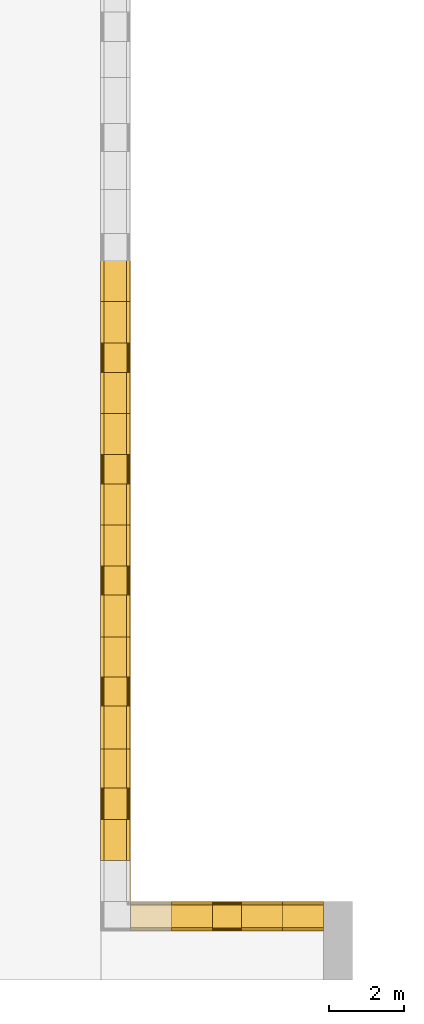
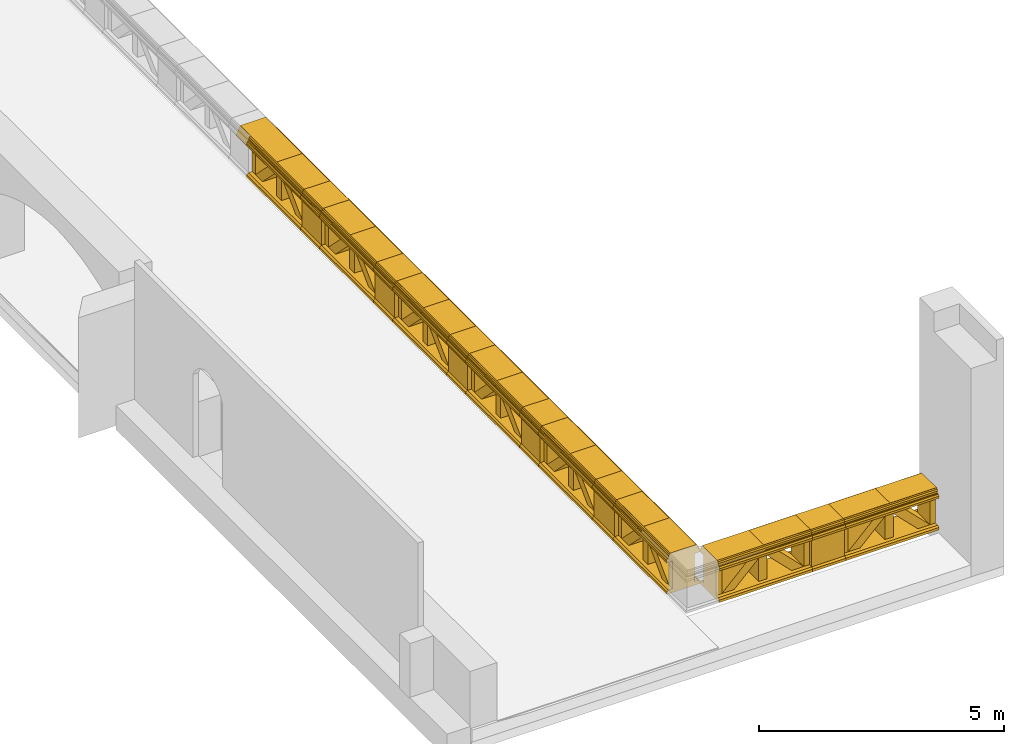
# One storey, part 6 of 9: 28 railings.
"""IFC2X3 building model written with IfcOpenShell, lengths in millimetres."""

from ifc_helpers import new_model, entity, si_unit, converted_unit, derived_unit, direction, frame, origin, place, context, subcontext, project, spatial, polyline, outline, extrude, faceted_brep, source, transform, mapped, material, type_object, type_shapes, element, save


model = new_model("IFC2X3")

# Units and contexts
model_context = context("Model", 3, precision=0.01, world=origin(), true_north=direction((6.123031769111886e-17, 1.0)))
body_context = subcontext(model_context, "Body", "Model", "MODEL_VIEW")
ifc_project = project(units=[si_unit("LENGTHUNIT", "METRE", prefix="MILLI"), si_unit("AREAUNIT", "SQUARE_METRE"), si_unit("VOLUMEUNIT", "CUBIC_METRE"), converted_unit("PLANEANGLEUNIT", "DEGREE", entity("IfcPlaneAngleMeasure", 0.017453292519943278), si_unit("PLANEANGLEUNIT", "RADIAN"), dimensions=[0, 0, 0, 0, 0, 0, 0]), si_unit("MASSUNIT", "GRAM", prefix="KILO"), derived_unit("MASSDENSITYUNIT", [(si_unit("MASSUNIT", "GRAM", prefix="KILO"), 1), (si_unit("LENGTHUNIT", "METRE"), -3)]), derived_unit("IONCONCENTRATIONUNIT", [(si_unit("MASSUNIT", "GRAM", prefix="KILO"), 1), (si_unit("LENGTHUNIT", "METRE"), -3)]), derived_unit("MOMENTOFINERTIAUNIT", [(si_unit("LENGTHUNIT", "METRE"), 4)]), si_unit("TIMEUNIT", "SECOND"), si_unit("FREQUENCYUNIT", "HERTZ"), si_unit("THERMODYNAMICTEMPERATUREUNIT", "DEGREE_CELSIUS"), derived_unit("THERMALTRANSMITTANCEUNIT", [(si_unit("MASSUNIT", "GRAM", prefix="KILO"), 1), (si_unit("THERMODYNAMICTEMPERATUREUNIT", "KELVIN"), -1), (si_unit("TIMEUNIT", "SECOND"), -3)]), derived_unit("THERMALCONDUCTANCEUNIT", [(si_unit("MASSUNIT", "GRAM", prefix="KILO"), 1), (si_unit("THERMODYNAMICTEMPERATUREUNIT", "KELVIN"), -1), (si_unit("TIMEUNIT", "SECOND"), -3), (si_unit("LENGTHUNIT", "METRE"), 1)]), derived_unit("VOLUMETRICFLOWRATEUNIT", [(si_unit("LENGTHUNIT", "METRE", prefix="DECI"), 3), (si_unit("TIMEUNIT", "SECOND"), -1)]), derived_unit("MASSFLOWRATEUNIT", [(si_unit("MASSUNIT", "GRAM", prefix="KILO"), 1), (si_unit("TIMEUNIT", "SECOND"), -1)]), derived_unit("ROTATIONALFREQUENCYUNIT", [(si_unit("TIMEUNIT", "SECOND"), -1)]), si_unit("ELECTRICCURRENTUNIT", "AMPERE"), si_unit("ELECTRICVOLTAGEUNIT", "VOLT"), si_unit("POWERUNIT", "WATT"), si_unit("FORCEUNIT", "NEWTON", prefix="KILO"), si_unit("ILLUMINANCEUNIT", "LUX"), si_unit("LUMINOUSFLUXUNIT", "LUMEN"), si_unit("LUMINOUSINTENSITYUNIT", "CANDELA"), si_unit("ENERGYUNIT", "JOULE"), derived_unit("USERDEFINED", [(si_unit("MASSUNIT", "GRAM", prefix="KILO"), -1), (si_unit("LENGTHUNIT", "METRE"), -2), (si_unit("TIMEUNIT", "SECOND"), 3), (si_unit("LUMINOUSFLUXUNIT", "LUMEN"), 1)]), derived_unit("USERDEFINED", [(si_unit("MASSUNIT", "GRAM", prefix="KILO"), 1), (si_unit("TIMEUNIT", "SECOND"), -3), (si_unit("LENGTHUNIT", "METRE"), 3), (si_unit("ELECTRICCURRENTUNIT", "AMPERE"), -2)]), derived_unit("SOUNDPOWERUNIT", [(si_unit("MASSUNIT", "GRAM", prefix="KILO"), 1), (si_unit("TIMEUNIT", "SECOND"), -3), (si_unit("LENGTHUNIT", "METRE"), 2)]), derived_unit("SOUNDPRESSUREUNIT", [(si_unit("MASSUNIT", "GRAM", prefix="KILO"), 1), (si_unit("LENGTHUNIT", "METRE"), -1), (si_unit("TIMEUNIT", "SECOND"), -2)]), derived_unit("LINEARVELOCITYUNIT", [(si_unit("LENGTHUNIT", "METRE"), 1), (si_unit("TIMEUNIT", "SECOND"), -1)]), si_unit("PRESSUREUNIT", "PASCAL"), derived_unit("USERDEFINED", [(si_unit("MASSUNIT", "GRAM", prefix="KILO"), 1), (si_unit("LENGTHUNIT", "METRE"), -2), (si_unit("TIMEUNIT", "SECOND"), -2)]), derived_unit("LINEARFORCEUNIT", [(si_unit("MASSUNIT", "GRAM", prefix="KILO"), 1), (si_unit("TIMEUNIT", "SECOND"), -2)]), derived_unit("PLANARFORCEUNIT", [(si_unit("MASSUNIT", "GRAM", prefix="KILO"), 1), (si_unit("LENGTHUNIT", "METRE"), -1), (si_unit("TIMEUNIT", "SECOND"), -2)]), derived_unit("SPECIFICHEATCAPACITYUNIT", [(si_unit("THERMODYNAMICTEMPERATUREUNIT", "KELVIN"), -1), (si_unit("LENGTHUNIT", "METRE"), 2), (si_unit("TIMEUNIT", "SECOND"), -2)]), derived_unit("HEATFLUXDENSITYUNIT", [(si_unit("MASSUNIT", "GRAM", prefix="KILO"), 1), (si_unit("TIMEUNIT", "SECOND"), -3)]), derived_unit("HEATINGVALUEUNIT", [(si_unit("LENGTHUNIT", "METRE"), 2), (si_unit("TIMEUNIT", "SECOND"), -2)]), derived_unit("VAPORPERMEABILITYUNIT", [(si_unit("LENGTHUNIT", "METRE"), -1), (si_unit("TIMEUNIT", "SECOND"), 1)]), derived_unit("DYNAMICVISCOSITYUNIT", [(si_unit("MASSUNIT", "GRAM", prefix="KILO"), 1), (si_unit("TIMEUNIT", "SECOND"), -1), (si_unit("LENGTHUNIT", "METRE"), -1)]), derived_unit("THERMALEXPANSIONCOEFFICIENTUNIT", [(si_unit("THERMODYNAMICTEMPERATUREUNIT", "KELVIN"), -1)]), derived_unit("MODULUSOFELASTICITYUNIT", [(si_unit("MASSUNIT", "GRAM", prefix="KILO"), 1), (si_unit("LENGTHUNIT", "METRE"), -1), (si_unit("TIMEUNIT", "SECOND"), -2)]), derived_unit("ISOTHERMALMOISTURECAPACITYUNIT", [(si_unit("MASSUNIT", "GRAM", prefix="KILO"), -1), (si_unit("LENGTHUNIT", "METRE"), 3)]), derived_unit("MOISTUREDIFFUSIVITYUNIT", [(si_unit("TIMEUNIT", "SECOND"), -1), (si_unit("LENGTHUNIT", "METRE"), 2)]), derived_unit("MASSPERLENGTHUNIT", [(si_unit("MASSUNIT", "GRAM", prefix="KILO"), 1), (si_unit("LENGTHUNIT", "METRE"), -1)]), derived_unit("THERMALRESISTANCEUNIT", [(si_unit("MASSUNIT", "GRAM", prefix="KILO"), -1), (si_unit("TIMEUNIT", "SECOND"), 3), (si_unit("THERMODYNAMICTEMPERATUREUNIT", "KELVIN"), 1)]), derived_unit("ACCELERATIONUNIT", [(si_unit("LENGTHUNIT", "METRE"), 1), (si_unit("TIMEUNIT", "SECOND"), -2)]), derived_unit("ANGULARVELOCITYUNIT", [(si_unit("TIMEUNIT", "SECOND"), -1), (si_unit("PLANEANGLEUNIT", "RADIAN"), 1)]), derived_unit("LINEARSTIFFNESSUNIT", [(si_unit("MASSUNIT", "GRAM", prefix="KILO"), 1), (si_unit("TIMEUNIT", "SECOND"), -2)]), derived_unit("WARPINGCONSTANTUNIT", [(si_unit("LENGTHUNIT", "METRE"), 6)]), derived_unit("LINEARMOMENTUNIT", [(si_unit("MASSUNIT", "GRAM", prefix="KILO"), 1), (si_unit("LENGTHUNIT", "METRE"), 1), (si_unit("TIMEUNIT", "SECOND"), -2)]), derived_unit("TORQUEUNIT", [(si_unit("MASSUNIT", "GRAM", prefix="KILO"), 1), (si_unit("LENGTHUNIT", "METRE"), 2), (si_unit("TIMEUNIT", "SECOND"), -2)])], contexts=[model_context])

# Site, building, storey
site_placement = place(None, origin())
site = spatial("IfcSite", under=ifc_project, at=site_placement, Name="Default", CompositionType="ELEMENT")
building_placement = place(site_placement, origin())
building = spatial("IfcBuilding", under=site, at=building_placement, Name="Eesti Rahvusraamatukogu hoone renoveerimise projekteerimistööd", CompositionType="ELEMENT")
storey_placement = place(building_placement, frame((0.0, 0.0, 3100.0)))
storey = spatial("IfcBuildingStorey", under=building, at=storey_placement, Name="E-korpus 2. korrus", CompositionType="ELEMENT", Elevation=3100.0)

# Railings
ifc_material = material(Name="LUMION_facade concrete")
railing_type_1 = type_object("IfcRailingType", Name="MK piire, katusepõhine 1:Railing Roof Based", PredefinedType="NOTDEFINED", material=ifc_material)
shared_shape_1 = source(origin(), body_context, "Body", "Brep", [
    faceted_brep([(1100.0, -261.2500000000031, 420.0), (1100.0, 261.2500000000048, 420.0), (1100.0, 261.25000000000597, 1210.0), (1100.0, 396.2500000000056, 1210.0), (1100.0, 396.2500000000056, 1260.882352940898), (1100.0, 376.25000000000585, 1305.0), (1100.0, 346.25000000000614, 1305.0), (1100.0, 346.2500000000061, 1362.4999999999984), (1100.0, 329.25000000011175, 1400.0), (1100.0, 306.25000000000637, 1420.0), (1100.0, -306.2500000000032, 1420.0), (1100.0, -329.250000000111, 1400.0), (1100.0, -346.25000000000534, 1362.4999999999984), (1100.0, -346.25000000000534, 1305.0), (1100.0, -376.250000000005, 1305.0), (1100.0, -396.25000000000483, 1260.882352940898), (1100.0, -396.25000000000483, 1210.0), (1100.0, -261.2500000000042, 1210.0), (-1100.0, -261.2500000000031, 420.0), (-1100.0, -261.2500000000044, 1210.0), (-1100.0, -396.25000000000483, 1210.0), (-1100.0, -396.25000000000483, 1260.882352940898), (-1100.0, -376.250000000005, 1305.0), (-1100.0, -346.25000000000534, 1305.0), (-1100.0, -346.25000000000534, 1362.4999999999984), (-1100.0, -329.250000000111, 1400.0), (-1100.0, -306.25000000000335, 1420.0), (-1100.0, 306.25000000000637, 1420.0), (-1100.0, 329.25000000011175, 1400.0), (-1100.0, 346.2500000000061, 1362.4999999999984), (-1100.0, 346.25000000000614, 1305.0), (-1100.0, 376.25000000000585, 1305.0), (-1100.0, 396.2500000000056, 1260.882352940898), (-1100.0, 396.2500000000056, 1210.0), (-1100.0, 261.25000000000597, 1210.0), (-1100.0, 261.2500000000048, 420.0), (970.0, -261.2500000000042, 1210.0), (970.0, -261.2500000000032, 515.0), (275.0, -261.2500000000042, 1210.0), (-275.0, -261.2500000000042, 1210.0), (-970.0, -261.2500000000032, 515.0), (-970.0, -261.2500000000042, 1210.0), (680.0, -261.2500000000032, 515.0), (100.0, -261.2500000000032, 515.0), (100.0, -261.25000000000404, 1095.0), (-100.0, -261.2500000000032, 515.0), (-680.0, -261.2500000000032, 515.0), (-100.0, -261.25000000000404, 1095.0), (-970.0, 261.25000000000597, 1210.0), (-970.0, 261.25000000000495, 515.0), (-275.0, 261.25000000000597, 1210.0), (275.0, 261.25000000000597, 1210.0), (970.0, 261.25000000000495, 515.0), (970.0, 261.25000000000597, 1210.0), (100.0, 261.25000000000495, 515.0), (680.0, 261.25000000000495, 515.0), (100.0, 261.2500000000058, 1095.0), (-680.0, 261.25000000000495, 515.0), (-100.0, 261.25000000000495, 515.0), (-100.0, 261.2500000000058, 1095.0)], [[[0, 1, 2, 3, 4, 5, 6, 7, 8, 9, 10, 11, 12, 13, 14, 15, 16, 17]], [[18, 19, 20, 21, 22, 23, 24, 25, 26, 27, 28, 29, 30, 31, 32, 33, 34, 35]], [[0, 17, 36, 37, 38, 39, 40, 41, 19, 18], [42, 43, 44], [45, 46, 47]], [[1, 0, 18, 35]], [[2, 1, 35, 34, 48, 49, 50, 51, 52, 53], [54, 55, 56], [57, 58, 59]], [[3, 2, 53, 36, 17, 16, 20, 19, 41, 48, 34, 33], [50, 39, 38, 51]], [[4, 3, 33, 32]], [[5, 4, 32, 31]], [[6, 5, 31, 30]], [[7, 6, 30, 29]], [[8, 7, 29, 28]], [[9, 8, 28, 27]], [[10, 9, 27, 26]], [[11, 10, 26, 25]], [[12, 11, 25, 24]], [[13, 12, 24, 23]], [[14, 13, 23, 22]], [[15, 14, 22, 21]], [[20, 16, 15, 21]], [[54, 43, 42, 55]], [[55, 42, 44, 56]], [[43, 54, 56, 44]], [[57, 46, 45, 58]], [[58, 45, 47, 59]], [[46, 57, 59, 47]], [[39, 50, 49, 40]], [[48, 41, 40, 49]], [[36, 53, 52, 37]], [[51, 38, 37, 52]]]),
    faceted_brep([(1100.0, -396.2500000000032, 420.0), (1100.0, -261.25000000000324, 420.0), (1100.0, -261.25000000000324, 515.0), (1100.0, -351.2500000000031, 515.0), (1100.0, -396.2500000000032, 483.4906607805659), (-1100.0, -396.2500000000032, 420.0), (-1100.0, -261.25000000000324, 420.0), (-1100.0, -261.25000000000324, 515.0), (-1100.0, -396.2500000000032, 483.4906607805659), (-1100.0, -351.2500000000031, 515.0)], [[[0, 1, 2, 3, 4]], [[1, 0, 5, 6]], [[2, 1, 6, 7]], [[0, 4, 8, 5]], [[3, 2, 7, 9]], [[4, 3, 9, 8]], [[5, 8, 9, 7, 6]]]),
    faceted_brep([(-1100.0, 396.250000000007, 420.0), (-1100.0, 261.2500000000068, 420.0), (-1100.0, 261.2500000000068, 515.0), (-1100.0, 351.25000000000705, 515.0), (-1100.0, 396.250000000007, 483.4906607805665), (1100.0, 396.250000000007, 483.4906607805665), (1100.0, 396.250000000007, 420.0), (1100.0, 261.2500000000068, 420.0), (1100.0, 261.2500000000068, 515.0), (1100.0, 351.25000000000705, 515.0)], [[[0, 1, 2, 3, 4]], [[5, 6, 0, 4]], [[7, 8, 2, 1]], [[6, 7, 1, 0]], [[9, 5, 4, 3]], [[8, 9, 3, 2]], [[6, 5, 9, 8, 7]]]),
])
type_shapes(railing_type_1, [shared_shape_1])
for number, where, z_axis, x_axis, name in (
    (1, (-42986.24999999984, 16858.00000000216, 60.0), (0.0, 0.0, 1.0), (0.0, -1.0, 0.0), "MK piire, katusepõhine 1:Railing Roof Based"),
    (2, (-42986.24999999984, 13873.0, 60.0), (0.0, 0.0, 1.0), (0.0, -1.0, 0.0), "MK piire, katusepõhine 1:Railing Roof Based"),
    (3, (-42986.24999999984, 10882.0, 60.0), (0.0, 0.0, 1.0), (0.0, -1.0, 0.0), "MK piire, katusepõhine 1:Railing Roof Based"),
    (4, (-42986.24999999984, 7900.0, 60.0), (0.0, 0.0, 1.0), (0.0, -1.0, 0.0), "MK piire, katusepõhine 1:Railing Roof Based"),
    (5, (-42986.24999999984, 4925.000000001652, 60.0), (0.0, 0.0, 1.0), (0.0, -1.0, 0.0), "MK piire, katusepõhine 1:Railing Roof Based"),
    (6, (-42986.24999999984, 1880.0, 60.0), (0.0, 0.0, 1.0), (0.0, -1.0, 0.0), "MK piire, katusepõhine 1:Railing Roof Based"),
):
    element("IfcRailing", number, at=place(storey_placement, frame(where, z_axis=z_axis, x_axis=x_axis)), inside=storey, type_object=railing_type_1, material=ifc_material, Name=name, ObjectType="MK piire, katusepõhine 1:Railing Roof Based", PredefinedType="NOTDEFINED", context=body_context, shape_type="MappedRepresentation", body=[
        mapped(shared_shape_1, transform((0.0, 0.0, 0.0), scale=1.0)),
    ])
for number, where, name in (
    (7, (-38510.0, 383.7500000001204, 60.0), "MK piire, katusepõhine 1:Railing Roof Based"),
    (8, (-41490.0, 383.75000000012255, 60.0), "MK piire, katusepõhine 1:Railing Roof Based"),
):
    element("IfcRailing", number, at=place(storey_placement, frame(where)), inside=storey, type_object=railing_type_1, material=ifc_material, Name=name, ObjectType="MK piire, katusepõhine 1:Railing Roof Based", PredefinedType="NOTDEFINED", context=body_context, shape_type="MappedRepresentation", body=[
        mapped(shared_shape_1, transform((0.0, 0.0, 0.0), scale=1.0)),
    ])
railing_type_2 = type_object("IfcRailingType", Name="MK piire, katusepõhine 4:PR-03 - Piirde element väljas, tumm", PredefinedType="NOTDEFINED", material=ifc_material)
shared_shape_2 = source(origin(), body_context, "Body", "SweptSolid", [
    extrude(outline(polyline([(597.5887041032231, -396.25000000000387), (661.0793648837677, -396.25000000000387), (661.0793648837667, 396.2500000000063), (597.5887041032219, 396.25000000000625), (566.0793648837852, 351.2500000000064), (-128.92063511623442, 351.25000000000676), (-128.92063511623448, 396.2500000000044), (-179.80298805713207, 396.2500000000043), (-223.92063511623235, 376.2500000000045), (-223.92063511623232, 346.2500000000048), (-281.42063511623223, 346.2500000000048), (-318.9206351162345, 329.2500000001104), (-338.9206351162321, 306.250000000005), (-338.92063511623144, -306.2500000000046), (-318.9206351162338, -329.25000000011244), (-281.4206351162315, -346.2500000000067), (-223.92063511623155, -346.2500000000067), (-223.92063511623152, -376.25000000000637), (-179.80298805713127, -396.2500000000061), (-128.92063511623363, -396.250000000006), (-128.92063511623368, -351.25000000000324), (566.079364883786, -351.25000000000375), (597.5887041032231, -396.25000000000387)])), frame((-1100.0, 0.0, 1081.0793648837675), z_axis=(1.0, 0.0, 0.0), x_axis=(0.0, 0.0, -1.0)), (0.0, 0.0, 1.0), 785.0000000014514),
])
type_shapes(railing_type_2, [shared_shape_2])
railing_1_placement = place(storey_placement, frame((-42986.249999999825, 14658.000000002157, 60.0), z_axis=(0.0, 0.0, 1.0), x_axis=(0.0, -1.0, 0.0)))
element("IfcRailing", 9, at=railing_1_placement, inside=storey, type_object=railing_type_2, material=ifc_material, Name="MK piire, katusepõhine 4:PR-03 - Piirde element väljas, tumm", ObjectType="MK piire, katusepõhine 4:PR-03 - Piirde element väljas, tumm", PredefinedType="NOTDEFINED", context=body_context, shape_type="MappedRepresentation", body=[
    mapped(shared_shape_2, transform((0.0, 0.0, 0.0), scale=1.0)),
])
railing_type_3 = type_object("IfcRailingType", Name="MK piire, katusepõhine 4:PR-03 - Piirde element väljas, tumm", PredefinedType="NOTDEFINED", material=ifc_material)
shared_shape_3 = source(origin(), body_context, "Body", "SweptSolid", [
    extrude(outline(polyline([(597.5887041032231, -396.25000000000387), (661.0793648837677, -396.25000000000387), (661.0793648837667, 396.2500000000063), (597.5887041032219, 396.25000000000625), (566.0793648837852, 351.2500000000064), (-128.92063511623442, 351.25000000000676), (-128.92063511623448, 396.2500000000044), (-179.80298805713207, 396.2500000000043), (-223.92063511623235, 376.2500000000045), (-223.92063511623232, 346.2500000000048), (-281.42063511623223, 346.2500000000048), (-318.9206351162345, 329.2500000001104), (-338.9206351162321, 306.250000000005), (-338.92063511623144, -306.2500000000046), (-318.9206351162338, -329.25000000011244), (-281.4206351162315, -346.2500000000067), (-223.92063511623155, -346.2500000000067), (-223.92063511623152, -376.25000000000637), (-179.80298805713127, -396.2500000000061), (-128.92063511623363, -396.250000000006), (-128.92063511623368, -351.25000000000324), (566.079364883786, -351.25000000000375), (597.5887041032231, -396.25000000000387)])), frame((-1100.0, 0.0, 1081.0793648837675), z_axis=(1.0, 0.0, 0.0), x_axis=(0.0, 0.0, -1.0)), (0.0, 0.0, 1.0), 791.0000000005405),
])
type_shapes(railing_type_3, [shared_shape_3])
railing_2_placement = place(storey_placement, frame((-42986.249999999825, 11673.0, 60.0), z_axis=(0.0, 0.0, 1.0), x_axis=(0.0, -1.0, 0.0)))
element("IfcRailing", 10, at=railing_2_placement, inside=storey, type_object=railing_type_3, material=ifc_material, Name="MK piire, katusepõhine 4:PR-03 - Piirde element väljas, tumm", ObjectType="MK piire, katusepõhine 4:PR-03 - Piirde element väljas, tumm", PredefinedType="NOTDEFINED", context=body_context, shape_type="MappedRepresentation", body=[
    mapped(shared_shape_3, transform((0.0, 0.0, 0.0), scale=1.0)),
])
railing_type_4 = type_object("IfcRailingType", Name="MK piire, katusepõhine 4:PR-03 - Piirde element väljas, tumm", PredefinedType="NOTDEFINED", material=ifc_material)
shared_shape_4 = source(origin(), body_context, "Body", "SweptSolid", [
    extrude(outline(polyline([(597.5887041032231, -396.25000000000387), (661.0793648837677, -396.25000000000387), (661.0793648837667, 396.2500000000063), (597.5887041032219, 396.25000000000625), (566.0793648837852, 351.2500000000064), (-128.92063511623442, 351.25000000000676), (-128.92063511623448, 396.2500000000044), (-179.80298805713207, 396.2500000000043), (-223.92063511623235, 376.2500000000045), (-223.92063511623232, 346.2500000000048), (-281.42063511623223, 346.2500000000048), (-318.9206351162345, 329.2500000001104), (-338.9206351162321, 306.250000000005), (-338.92063511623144, -306.2500000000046), (-318.9206351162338, -329.25000000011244), (-281.4206351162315, -346.2500000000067), (-223.92063511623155, -346.2500000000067), (-223.92063511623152, -376.25000000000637), (-179.80298805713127, -396.2500000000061), (-128.92063511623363, -396.250000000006), (-128.92063511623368, -351.25000000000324), (566.079364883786, -351.25000000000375), (597.5887041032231, -396.25000000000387)])), frame((-1100.0, 0.0, 1081.0793648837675), z_axis=(1.0, 0.0, 0.0), x_axis=(0.0, 0.0, -1.0)), (0.0, 0.0, 1.0), 782.0000000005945),
])
type_shapes(railing_type_4, [shared_shape_4])
railing_3_placement = place(storey_placement, frame((-42986.24999999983, 8682.0, 60.0), z_axis=(0.0, 0.0, 1.0), x_axis=(0.0, -1.0, 0.0)))
element("IfcRailing", 11, at=railing_3_placement, inside=storey, type_object=railing_type_4, material=ifc_material, Name="MK piire, katusepõhine 4:PR-03 - Piirde element väljas, tumm", ObjectType="MK piire, katusepõhine 4:PR-03 - Piirde element väljas, tumm", PredefinedType="NOTDEFINED", context=body_context, shape_type="MappedRepresentation", body=[
    mapped(shared_shape_4, transform((0.0, 0.0, 0.0), scale=1.0)),
])
railing_type_5 = type_object("IfcRailingType", Name="MK piire, katusepõhine 4:PR-03 - Piirde element väljas, tumm", PredefinedType="NOTDEFINED", material=ifc_material)
shared_shape_5 = source(origin(), body_context, "Body", "SweptSolid", [
    extrude(outline(polyline([(597.5887041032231, -396.25000000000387), (661.0793648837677, -396.25000000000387), (661.0793648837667, 396.2500000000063), (597.5887041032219, 396.25000000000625), (566.0793648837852, 351.2500000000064), (-128.92063511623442, 351.25000000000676), (-128.92063511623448, 396.2500000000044), (-179.80298805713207, 396.2500000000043), (-223.92063511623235, 376.2500000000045), (-223.92063511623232, 346.2500000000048), (-281.42063511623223, 346.2500000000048), (-318.9206351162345, 329.2500000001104), (-338.9206351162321, 306.250000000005), (-338.92063511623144, -306.2500000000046), (-318.9206351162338, -329.25000000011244), (-281.4206351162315, -346.2500000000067), (-223.92063511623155, -346.2500000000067), (-223.92063511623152, -376.25000000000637), (-179.80298805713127, -396.2500000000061), (-128.92063511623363, -396.250000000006), (-128.92063511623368, -351.25000000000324), (566.079364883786, -351.25000000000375), (597.5887041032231, -396.25000000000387)])), frame((-1100.0, 0.0, 1081.0793648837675), z_axis=(1.0, 0.0, 0.0), x_axis=(0.0, 0.0, -1.0)), (0.0, 0.0, 1.0), 774.9999999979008),
])
type_shapes(railing_type_5, [shared_shape_5])
railing_4_placement = place(storey_placement, frame((-42986.24999999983, 5700.0, 60.0), z_axis=(0.0, 0.0, 1.0), x_axis=(0.0, -1.0, 0.0)))
element("IfcRailing", 12, at=railing_4_placement, inside=storey, type_object=railing_type_5, material=ifc_material, Name="MK piire, katusepõhine 4:PR-03 - Piirde element väljas, tumm", ObjectType="MK piire, katusepõhine 4:PR-03 - Piirde element väljas, tumm", PredefinedType="NOTDEFINED", context=body_context, shape_type="MappedRepresentation", body=[
    mapped(shared_shape_5, transform((0.0, 0.0, 0.0), scale=1.0)),
])
railing_type_6 = type_object("IfcRailingType", Name="MK piire, katusepõhine 4:PR-03 - Piirde element väljas, tumm", PredefinedType="NOTDEFINED", material=ifc_material)
shared_shape_6 = source(origin(), body_context, "Body", "SweptSolid", [
    extrude(outline(polyline([(597.5887041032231, -396.25000000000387), (661.0793648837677, -396.25000000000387), (661.0793648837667, 396.2500000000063), (597.5887041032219, 396.25000000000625), (566.0793648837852, 351.2500000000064), (-128.92063511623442, 351.25000000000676), (-128.92063511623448, 396.2500000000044), (-179.80298805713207, 396.2500000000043), (-223.92063511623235, 376.2500000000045), (-223.92063511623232, 346.2500000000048), (-281.42063511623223, 346.2500000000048), (-318.9206351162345, 329.2500000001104), (-338.9206351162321, 306.250000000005), (-338.92063511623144, -306.2500000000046), (-318.9206351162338, -329.25000000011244), (-281.4206351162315, -346.2500000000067), (-223.92063511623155, -346.2500000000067), (-223.92063511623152, -376.25000000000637), (-179.80298805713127, -396.2500000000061), (-128.92063511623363, -396.250000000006), (-128.92063511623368, -351.25000000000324), (566.079364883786, -351.25000000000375), (597.5887041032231, -396.25000000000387)])), frame((-1100.0, 0.0, 1081.0793648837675), z_axis=(1.0, 0.0, 0.0), x_axis=(0.0, 0.0, -1.0)), (0.0, 0.0, 1.0), 845.0000000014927),
])
type_shapes(railing_type_6, [shared_shape_6])
railing_5_placement = place(storey_placement, frame((-42986.24999999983, 2725.000000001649, 60.0), z_axis=(0.0, 0.0, 1.0), x_axis=(0.0, -1.0, 0.0)))
element("IfcRailing", 13, at=railing_5_placement, inside=storey, type_object=railing_type_6, material=ifc_material, Name="MK piire, katusepõhine 4:PR-03 - Piirde element väljas, tumm", ObjectType="MK piire, katusepõhine 4:PR-03 - Piirde element väljas, tumm", PredefinedType="NOTDEFINED", context=body_context, shape_type="MappedRepresentation", body=[
    mapped(shared_shape_6, transform((0.0, 0.0, 0.0), scale=1.0)),
])
railing_type_7 = type_object("IfcRailingType", Name="MK piire, katusepõhine 4:PR-03 - Piirde element väljas, tumm", PredefinedType="NOTDEFINED", material=ifc_material)
shared_shape_7 = source(origin(), body_context, "Body", "SweptSolid", [
    extrude(outline(polyline([(597.5887041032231, -396.25000000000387), (661.0793648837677, -396.25000000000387), (661.0793648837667, 396.2500000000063), (597.5887041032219, 396.25000000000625), (566.0793648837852, 351.2500000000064), (-128.92063511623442, 351.25000000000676), (-128.92063511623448, 396.2500000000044), (-179.80298805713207, 396.2500000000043), (-223.92063511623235, 376.2500000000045), (-223.92063511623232, 346.2500000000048), (-281.42063511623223, 346.2500000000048), (-318.9206351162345, 329.2500000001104), (-338.9206351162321, 306.250000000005), (-338.92063511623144, -306.2500000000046), (-318.9206351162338, -329.25000000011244), (-281.4206351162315, -346.2500000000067), (-223.92063511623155, -346.2500000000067), (-223.92063511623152, -376.25000000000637), (-179.80298805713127, -396.2500000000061), (-128.92063511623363, -396.250000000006), (-128.92063511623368, -351.25000000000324), (566.079364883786, -351.25000000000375), (597.5887041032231, -396.25000000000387)])), frame((-1100.0, 0.0, 1081.0793648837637), z_axis=(1.0, 0.0, 0.0), x_axis=(0.0, 0.0, -1.0)), (0.0, 0.0, 1.0), 780.0000000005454),
])
type_shapes(railing_type_7, [shared_shape_7])
railing_6_placement = place(storey_placement, frame((-40710.0, 383.75000000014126, 60.0), z_axis=(0.0, 0.0, 1.0), x_axis=(-1.0, 0.0, 0.0)))
element("IfcRailing", 14, at=railing_6_placement, inside=storey, type_object=railing_type_7, material=ifc_material, Name="MK piire, katusepõhine 4:PR-03 - Piirde element väljas, tumm", ObjectType="MK piire, katusepõhine 4:PR-03 - Piirde element väljas, tumm", PredefinedType="NOTDEFINED", context=body_context, shape_type="MappedRepresentation", body=[
    mapped(shared_shape_7, transform((0.0, 0.0, 0.0), scale=1.0)),
])
railing_type_8 = type_object("IfcRailingType", Name="PR3 mütsi moodul:PR3.2 - laius 790mm, pikkus1500mm", PredefinedType="NOTDEFINED", material=ifc_material)
shared_shape_8 = source(origin(), body_context, "Body", "SweptSolid", [
    extrude(outline(polyline([(-395.0, -105.0), (395.0, -105.0), (301.5019760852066, 105.0), (-301.5019760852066, 105.0), (-395.0, -105.0)])), frame((0.0, 0.0, 105.0), z_axis=(1.0, 0.0, 0.0), x_axis=(0.0, 1.0, 0.0)), (0.0, 0.0, 1.0), 1500.0),
])
type_shapes(railing_type_8, [shared_shape_8])
railing_7_placement = place(storey_placement, frame((-42990.0, 3380.0, 1270.0), z_axis=(0.0, 0.0, 1.0), x_axis=(0.0, 1.0, 0.0)))
element("IfcRailing", 15, at=railing_7_placement, inside=storey, type_object=railing_type_8, material=ifc_material, Name="PR3 mütsi moodul:PR3.2 - laius 790mm, pikkus1500mm", ObjectType="PR3 mütsi moodul:PR3.2 - laius 790mm, pikkus1500mm", PredefinedType="NOTDEFINED", context=body_context, shape_type="MappedRepresentation", body=[
    mapped(shared_shape_8, transform((0.0, 0.0, 0.0), scale=1.0)),
])
railing_type_9 = type_object("IfcRailingType", Name="PR3 mütsi moodul:PR3.2 - laius 790mm, pikkus1500mm", PredefinedType="NOTDEFINED", material=ifc_material)
shared_shape_9 = source(origin(), body_context, "Body", "SweptSolid", [
    extrude(outline(polyline([(-256.5832470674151, -318.1431082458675), (-26.709628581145, -318.1431082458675), (218.55417468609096, 232.72841319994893), (64.73870096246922, 403.5578032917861), (-256.5832470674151, -318.1431082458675)])), frame((0.0, 0.0, 105.0), z_axis=(1.0, 0.0, 0.0), x_axis=(0.0, -0.40673664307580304, 0.9135454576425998)), (0.0, 0.0, 1.0), 1499.9999999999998),
])
type_shapes(railing_type_9, [shared_shape_9])
for number, where, z_axis, x_axis, name in (
    (16, (-42990.0, 3380.0, 1270.0), (0.0, 0.0, 1.0), (0.0, -1.0, 0.0), "PR3 mütsi moodul:PR3.2 - laius 790mm, pikkus1500mm"),
    (17, (-42990.0, 6380.0, 1270.0), (0.0, 0.0, 1.0), (0.0, -1.0, 0.0), "PR3 mütsi moodul:PR3.2 - laius 790mm, pikkus1500mm"),
    (18, (-42990.0, 7880.0, 1270.0), (0.0, 0.0, 1.0), (0.0, -1.0, 0.0), "PR3 mütsi moodul:PR3.2 - laius 790mm, pikkus1500mm"),
    (19, (-42990.0, 9380.0, 1270.0), (0.0, 0.0, 1.0), (0.0, -1.0, 0.0), "PR3 mütsi moodul:PR3.2 - laius 790mm, pikkus1500mm"),
    (20, (-42990.0, 10880.0, 1270.0), (0.0, 0.0, 1.0), (0.0, -1.0, 0.0), "PR3 mütsi moodul:PR3.2 - laius 790mm, pikkus1500mm"),
    (21, (-42990.0, 12380.0, 1270.0), (0.0, 0.0, 1.0), (0.0, -1.0, 0.0), "PR3 mütsi moodul:PR3.2 - laius 790mm, pikkus1500mm"),
    (22, (-42990.0, 13880.0, 1270.0), (0.0, 0.0, 1.0), (0.0, -1.0, 0.0), "PR3 mütsi moodul:PR3.2 - laius 790mm, pikkus1500mm"),
    (23, (-42990.0, 15380.0, 1270.0), (0.0, 0.0, 1.0), (0.0, -1.0, 0.0), "PR3 mütsi moodul:PR3.2 - laius 790mm, pikkus1500mm"),
    (24, (-42990.0, 16880.0, 1270.0), (0.0, 0.0, 1.0), (0.0, -1.0, 0.0), "PR3 mütsi moodul:PR3.2 - laius 790mm, pikkus1500mm"),
    (25, (-42990.0, 18380.0, 1270.0), (0.0, 0.0, 1.0), (0.0, -1.0, 0.0), "PR3 mütsi moodul:PR3.2 - laius 790mm, pikkus1500mm"),
):
    element("IfcRailing", number, at=place(storey_placement, frame(where, z_axis=z_axis, x_axis=x_axis)), inside=storey, type_object=railing_type_9, material=ifc_material, Name=name, ObjectType="PR3 mütsi moodul:PR3.2 - laius 790mm, pikkus1500mm", PredefinedType="NOTDEFINED", context=body_context, shape_type="MappedRepresentation", body=[
        mapped(shared_shape_9, transform((0.0, 0.0, 0.0), scale=1.0)),
    ])
railing_type_10 = type_object("IfcRailingType", Name="PR3 mütsi moodul:PR3.1 - laius 790mm, pikkus1100mm", PredefinedType="NOTDEFINED", material=ifc_material)
shared_shape_10 = source(origin(), body_context, "Body", "SweptSolid", [
    extrude(outline(polyline([(-395.0, -105.0), (395.0, -105.0), (301.5019760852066, 105.0), (-301.5019760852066, 105.0), (-395.0, -105.0)])), frame((0.0, 0.0, 105.0), z_axis=(1.0, 0.0, 0.0), x_axis=(0.0, 1.0, 0.0)), (0.0, 0.0, 1.0), 1100.0000000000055),
])
type_shapes(railing_type_10, [shared_shape_10])
railing_8_placement = place(storey_placement, frame((-38510.0, 385.0, 1270.0)))
element("IfcRailing", 26, at=railing_8_placement, inside=storey, type_object=railing_type_10, material=ifc_material, Name="PR3 mütsi moodul:PR3.1 - laius 790mm, pikkus1100mm", ObjectType="PR3 mütsi moodul:PR3.1 - laius 790mm, pikkus1100mm", PredefinedType="NOTDEFINED", context=body_context, shape_type="MappedRepresentation", body=[
    mapped(shared_shape_10, transform((0.0, 0.0, 0.0), scale=1.0)),
])
railing_type_11 = type_object("IfcRailingType", Name="PR3 mütsi moodul:PR3.2 - laius 790mm, pikkus1500mm", PredefinedType="NOTDEFINED", material=ifc_material)
shared_shape_11 = source(origin(), body_context, "Body", "SweptSolid", [
    extrude(outline(polyline([(-256.5832470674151, -318.1431082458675), (-26.709628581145, -318.1431082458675), (218.55417468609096, 232.72841319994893), (64.73870096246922, 403.5578032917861), (-256.5832470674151, -318.1431082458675)])), frame((0.0, 0.0, 105.0), z_axis=(1.0, 0.0, 0.0), x_axis=(0.0, -0.40673664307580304, 0.9135454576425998)), (0.0, 0.0, 1.0), 1490.000000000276),
])
type_shapes(railing_type_11, [shared_shape_11])
railing_9_placement = place(storey_placement, frame((-38510.0, 385.0, 1270.0), z_axis=(0.0, 0.0, 1.0), x_axis=(-1.0, 0.0, 0.0)))
element("IfcRailing", 27, at=railing_9_placement, inside=storey, type_object=railing_type_11, material=ifc_material, Name="PR3 mütsi moodul:PR3.2 - laius 790mm, pikkus1500mm", ObjectType="PR3 mütsi moodul:PR3.2 - laius 790mm, pikkus1500mm", PredefinedType="NOTDEFINED", context=body_context, shape_type="MappedRepresentation", body=[
    mapped(shared_shape_11, transform((0.0, 0.0, 0.0), scale=1.0)),
])
railing_type_12 = type_object("IfcRailingType", Name="PR3 mütsi moodul:PR3.2 - laius 790mm, pikkus1500mm", PredefinedType="NOTDEFINED", material=ifc_material)
shared_shape_12 = source(origin(), body_context, "Body", "SweptSolid", [
    extrude(outline(polyline([(-395.0, -105.0), (395.0, -105.0), (301.5019760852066, 105.0), (-301.5019760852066, 105.0), (-395.0, -105.0)])), frame((0.0, 0.0, 105.0), z_axis=(1.0, 0.0, 0.0), x_axis=(0.0, 1.0, 0.0)), (0.0, 0.0, 1.0), 1490.0000000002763),
])
type_shapes(railing_type_12, [shared_shape_12])
railing_10_placement = place(storey_placement, frame((-41490.0, 385.0, 1270.0)))
element("IfcRailing", 28, at=railing_10_placement, inside=storey, type_object=railing_type_12, material=ifc_material, Name="PR3 mütsi moodul:PR3.2 - laius 790mm, pikkus1500mm", ObjectType="PR3 mütsi moodul:PR3.2 - laius 790mm, pikkus1500mm", PredefinedType="NOTDEFINED", context=body_context, shape_type="MappedRepresentation", body=[
    mapped(shared_shape_12, transform((0.0, 0.0, 0.0), scale=1.0)),
])

save(model, "model.ifc")
